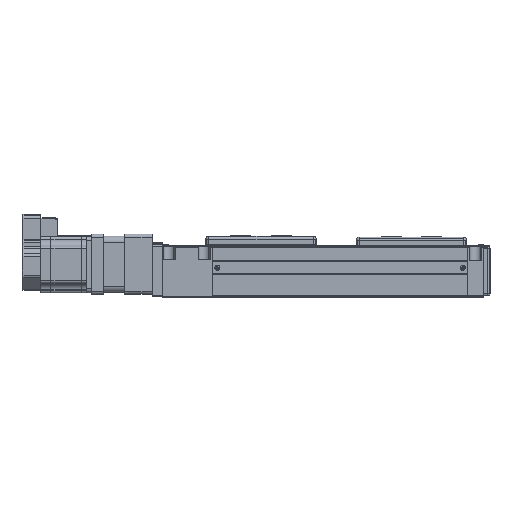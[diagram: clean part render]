
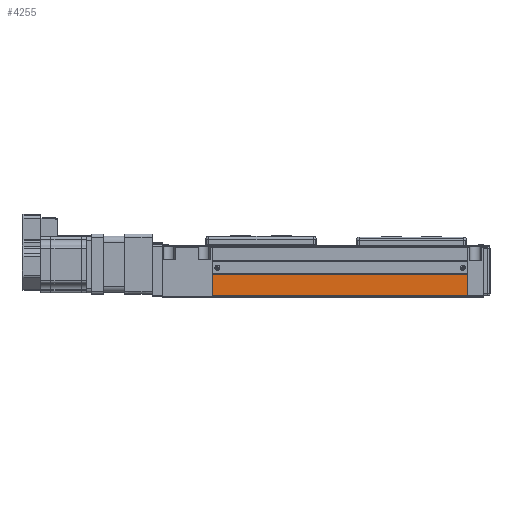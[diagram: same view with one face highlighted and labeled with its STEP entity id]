
A CAD part, front view. The second image highlights one B-rep face of the part: STEP entity #4255.
In plain terms, the highlighted planar face has unit normal (0, -1, 0).
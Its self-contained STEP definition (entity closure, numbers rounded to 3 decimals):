
#4255=ADVANCED_FACE('',(#9693),#9694,.F.);
#9693=FACE_OUTER_BOUND('',#17850,.T.);
#9694=PLANE('',#17851);
#17850=EDGE_LOOP('',(#30276,#30277,#30278,#30279));
#17851=AXIS2_PLACEMENT_3D('',#30280,#30281,#30282);
#30276=ORIENTED_EDGE('',*,*,#46287,.F.);
#30277=ORIENTED_EDGE('',*,*,#48072,.T.);
#30278=ORIENTED_EDGE('',*,*,#48073,.F.);
#30279=ORIENTED_EDGE('',*,*,#48074,.F.);
#30280=CARTESIAN_POINT('',(792.528,-103.2,-44.15));
#30281=DIRECTION('',(0.,1.0,0.0));
#30282=DIRECTION('',(0.0,0.0,1.0));
#46287=EDGE_CURVE('',#56320,#56322,#56323,.T.);
#48072=EDGE_CURVE('',#56320,#59158,#59159,.T.);
#48073=EDGE_CURVE('',#59160,#59158,#59161,.T.);
#48074=EDGE_CURVE('',#56322,#59160,#59162,.T.);
#56320=VERTEX_POINT('',#70224);
#56322=VERTEX_POINT('',#70226);
#56323=LINE('',#70227,#70228);
#59158=VERTEX_POINT('',#74249);
#59159=LINE('',#74250,#74251);
#59160=VERTEX_POINT('',#74252);
#59161=LINE('',#74253,#74254);
#59162=LINE('',#74255,#74256);
#70224=CARTESIAN_POINT('',(792.528,-103.2,-23.15));
#70226=CARTESIAN_POINT('',(1047.528,-103.2,-23.15));
#70227=CARTESIAN_POINT('',(920.028,-103.2,-23.15));
#70228=VECTOR('',#84073,1.0);
#74249=CARTESIAN_POINT('',(792.528,-103.2,-44.15));
#74250=CARTESIAN_POINT('',(792.528,-103.2,-20.15));
#74251=VECTOR('',#85941,1.0);
#74252=CARTESIAN_POINT('',(1047.528,-103.2,-44.15));
#74253=CARTESIAN_POINT('',(920.028,-103.2,-44.15));
#74254=VECTOR('',#85942,1.0);
#74255=CARTESIAN_POINT('',(1047.528,-103.2,-20.15));
#74256=VECTOR('',#85943,1.0);
#84073=DIRECTION('',(1.0,0.,0.0));
#85941=DIRECTION('',(0.0,0.0,-1.0));
#85942=DIRECTION('',(-1.0,0.,0.0));
#85943=DIRECTION('',(0.0,0.0,-1.0));
